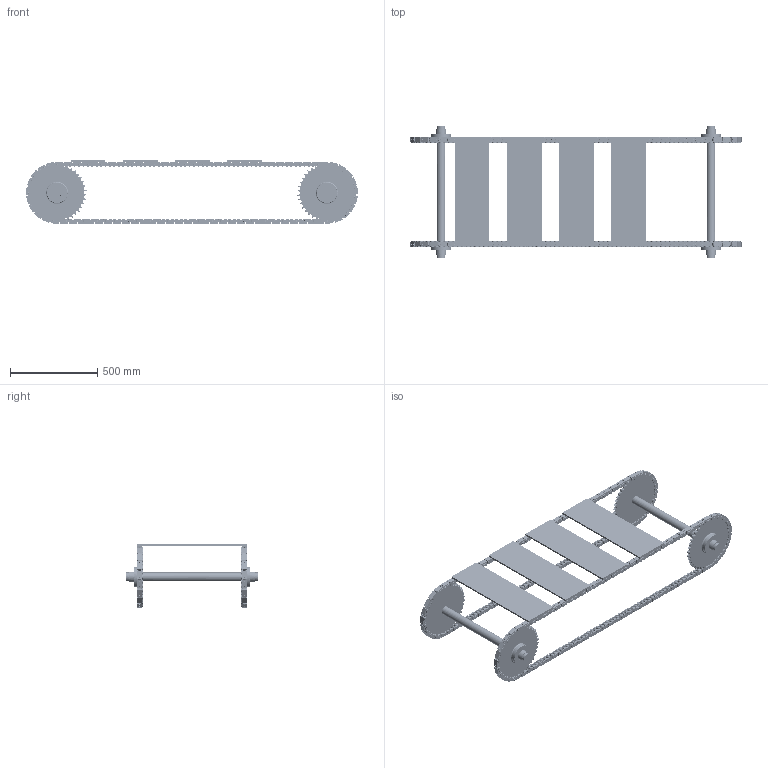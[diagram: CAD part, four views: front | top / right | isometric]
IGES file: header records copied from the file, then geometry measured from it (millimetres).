
Start section: C
Global section: file name: ESTEIRA COM CORRENTE ESPECIAL PARA LIXADEIRA DE BORDA.igs; native system: By Siemens PLM Incorporated; preprocessor: XPlus GENERIC/IGES 21.0.46; author: Author; organization: Title; date: 20200226.154517; units: millimetre
Bounding box: 1906.67 x 758 x 366.57 mm (x, y, z)
Surface area: 5773115.9 mm2 (no closed solid volume)
Topology: 0 solids, 0 shells, 29866 faces, 165468 edges, 165468 vertices
Faces by surface type: bspline 29866
